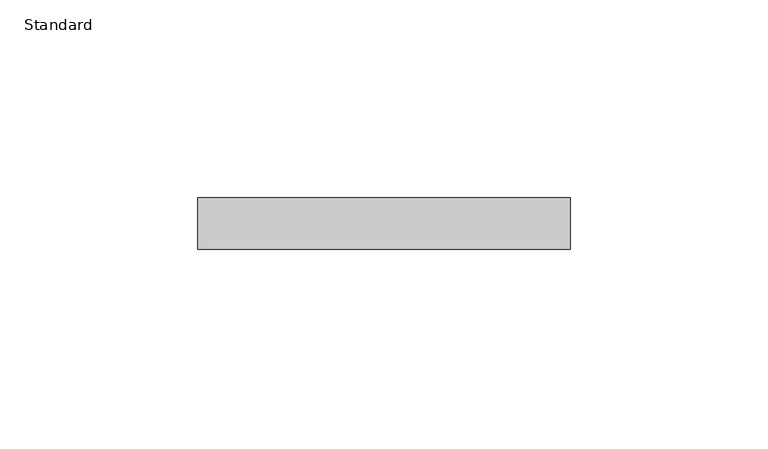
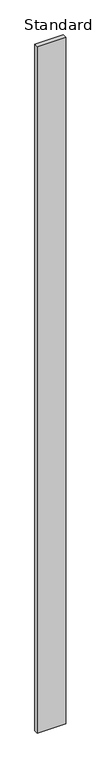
"""IFC4 building model written with IfcOpenShell, lengths in millimetres: furniture geometry, X_Partition-Compact Laminate-Duracube-Rectangular : Standard."""

from ifc_helpers import new_model, si_unit, origin, origin_with_axes, place, context, project, spatial, polyline, outline, extrude, source, transform, mapped, element, save


def standard_9f86a58c(model_context):
    return source(origin(), model_context, "Body", "SweptSolid", [
        extrude(outline(polyline([(91.7003264, 0.0), (91.7003264, -13.0), (-2.2996736, -13.0), (-2.2996736, 0.0), (91.7003264, 0.0)])), origin_with_axes(), (0.0, 0.0, 1.0), 2398.0),
    ])


if __name__ == "__main__":
    model = new_model("IFC4")
    model_context = context("Model", 3, world=origin())
    ifc_project = project(units=[si_unit("LENGTHUNIT", "METRE", prefix="MILLI")], contexts=[model_context])
    site = spatial("IfcSite", under=ifc_project)
    building = spatial("IfcBuilding", under=site)
    placement = place(None, origin())
    standard_shape = standard_9f86a58c(model_context)
    element("IfcFurniture", 1, ObjectType="X_Partition-Compact Laminate-Duracube-Rectangular : Standard", at=placement, inside=building, context=model_context, shape_type="MappedRepresentation", body=[
        mapped(standard_shape, transform((0.0, 0.0, 0.0), x_axis=(1.0, 0.0, 0.0), y_axis=(0.0, 1.0, 0.0), z_axis=(0.0, 0.0, 1.0))),
    ])
    save(model, "model.ifc")
